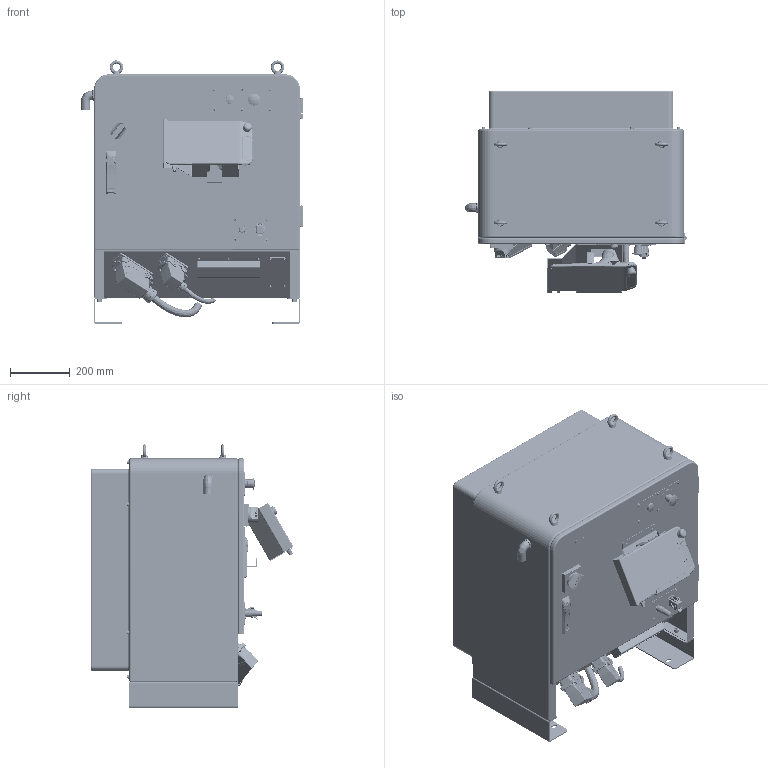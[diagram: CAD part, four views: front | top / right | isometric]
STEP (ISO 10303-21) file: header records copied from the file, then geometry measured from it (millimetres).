
FILE_DESCRIPTION(/* description */ (''),/* implementation_level */ '2;1');
FILE_NAME(/* name */ 'XBC5E 含示教器简化模型-20230330.stp',/* time_stamp */ '2023-03-30T10:28:18+08:00',/* author */ (''),/* organization */ (''),/* preprocessor_version */ 'ST-DEVELOPER v16',/* originating_system */ 'SIEMENS PLM Software NX 10.0',/* authorisation */ '');
FILE_SCHEMA (('AUTOMOTIVE_DESIGN { 1 0 10303 214 3 1 1 1 }'));
Products named in the file (1): XBC5E 简化模型-20230330_stp
Bounding box: 743.49 x 679.04 x 881.48 mm (x, y, z)
Volume: 245622237.1 mm3; surface area: 3805923.5 mm2
Topology: 4 solids, 92 shells, 12772 faces, 33984 edges, 21759 vertices
Faces by surface type: plane 6240, cylinder 2646, bspline 1804, cone 758, torus 647, extrusion 402, sphere 268, revolution 7
Full cylindrical faces by diameter (mm): 2 x2, 2.874 x2, 3 x4, 3.2 x6, 3.838 x31, 4 x38, 4.2 x2, 4.5 x17, 4.7 x3, 4.8 x12, 5 x8, 5.5 x18, 5.795 x6, 6.4 x6, 8 x35, 8.782 x4, 9 x4, 9.732 x8, 10 x10, 12 x20, 16 x2, 18 x1, 19.5 x1, 20 x1, 22 x2, 28 x1, 29.988 x1, 40 x1, 60 x1
Entity records: 491773 total; most frequent: CARTESIAN_POINT 188956, ORIENTED_EDGE 66392, DIRECTION 56761, EDGE_CURVE 33196, VERTEX_POINT 21612, AXIS2_PLACEMENT_3D 19004, VECTOR 18746, LINE 18344
